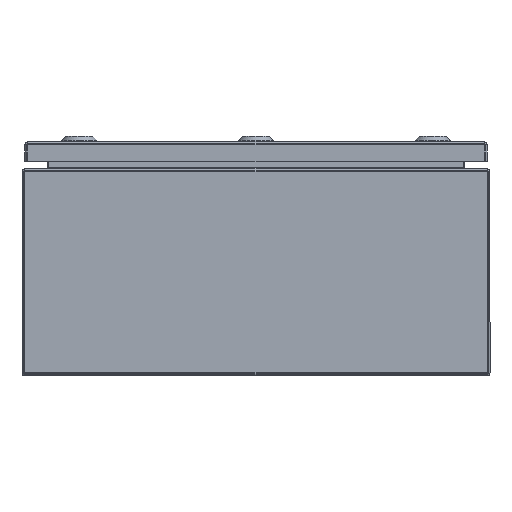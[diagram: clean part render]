
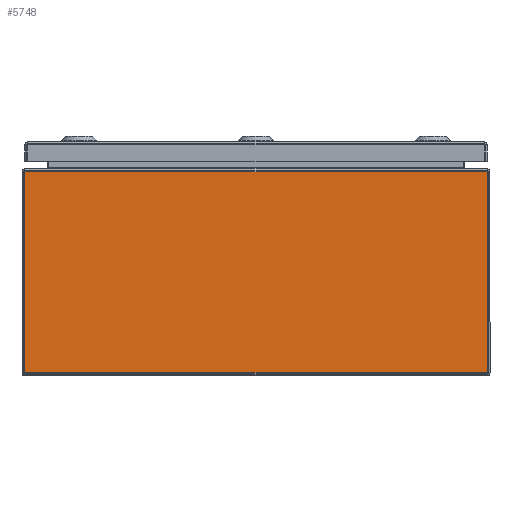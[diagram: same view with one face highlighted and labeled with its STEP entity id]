
A CAD part, left-side view. The second image highlights one B-rep face of the part: STEP entity #5748.
In plain terms, the highlighted planar face has unit normal (-1, 0, 0).
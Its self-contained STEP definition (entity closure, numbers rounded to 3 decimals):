
#244 = EDGE_LOOP ( 'NONE', ( #1904, #426, #3186, #3198 ) ) ;
#426 = ORIENTED_EDGE ( 'NONE', *, *, #4715, .T. ) ;
#524 = CARTESIAN_POINT ( 'NONE',  ( -300., -197.5, 2.35 ) ) ;
#617 = VECTOR ( 'NONE', #1994, 1000. ) ;
#815 = CARTESIAN_POINT ( 'NONE',  ( -300., 200., 174.5 ) ) ;
#923 = VERTEX_POINT ( 'NONE', #5918 ) ;
#1235 = DIRECTION ( 'NONE',  ( 0., 0., 1. ) ) ;
#1728 = DIRECTION ( 'NONE',  ( 0., 0., -1. ) ) ;
#1729 = EDGE_CURVE ( 'NONE', #6974, #923, #7065, .T. ) ;
#1730 = CARTESIAN_POINT ( 'NONE',  ( -300., -200., 2.35 ) ) ;
#1863 = VECTOR ( 'NONE', #8220, 1000. ) ;
#1869 = LINE ( 'NONE', #7694, #5579 ) ;
#1904 = ORIENTED_EDGE ( 'NONE', *, *, #6475, .T. ) ;
#1994 = DIRECTION ( 'NONE',  ( 0., 0., -1. ) ) ;
#2020 = VERTEX_POINT ( 'NONE', #524 ) ;
#2189 = AXIS2_PLACEMENT_3D ( 'NONE', #6487, #6016, #1728 ) ;
#2811 = CARTESIAN_POINT ( 'NONE',  ( -300., 197.5, 2.35 ) ) ;
#3186 = ORIENTED_EDGE ( 'NONE', *, *, #3305, .T. ) ;
#3198 = ORIENTED_EDGE ( 'NONE', *, *, #1729, .F. ) ;
#3261 = DIRECTION ( 'NONE',  ( 0., -1., 0. ) ) ;
#3305 = EDGE_CURVE ( 'NONE', #2020, #923, #1869, .T. ) ;
#3776 = CARTESIAN_POINT ( 'NONE',  ( -300., 197.5, 1.5 ) ) ;
#3853 = VECTOR ( 'NONE', #3261, 1000. ) ;
#3940 = PLANE ( 'NONE',  #2189 ) ;
#4251 = CARTESIAN_POINT ( 'NONE',  ( -300., 197.5, 174.5 ) ) ;
#4715 = EDGE_CURVE ( 'NONE', #6582, #2020, #4893, .T. ) ;
#4893 = LINE ( 'NONE', #1730, #1863 ) ;
#5579 = VECTOR ( 'NONE', #1235, 1000. ) ;
#5748 = ADVANCED_FACE ( 'NONE', ( #7105 ), #3940, .F. ) ;
#5918 = CARTESIAN_POINT ( 'NONE',  ( -300., -197.5, 174.5 ) ) ;
#6016 = DIRECTION ( 'NONE',  ( 1., 0., 0. ) ) ;
#6475 = EDGE_CURVE ( 'NONE', #6974, #6582, #7108, .T. ) ;
#6487 = CARTESIAN_POINT ( 'NONE',  ( -300., -200., 1.5 ) ) ;
#6582 = VERTEX_POINT ( 'NONE', #2811 ) ;
#6974 = VERTEX_POINT ( 'NONE', #4251 ) ;
#7065 = LINE ( 'NONE', #815, #3853 ) ;
#7105 = FACE_OUTER_BOUND ( 'NONE', #244, .T. ) ;
#7108 = LINE ( 'NONE', #3776, #617 ) ;
#7694 = CARTESIAN_POINT ( 'NONE',  ( -300., -197.5, 1.5 ) ) ;
#8220 = DIRECTION ( 'NONE',  ( 0., -1., 0. ) ) ;
